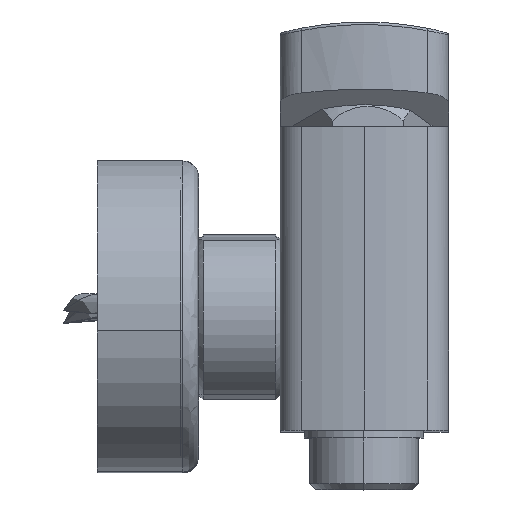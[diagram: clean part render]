
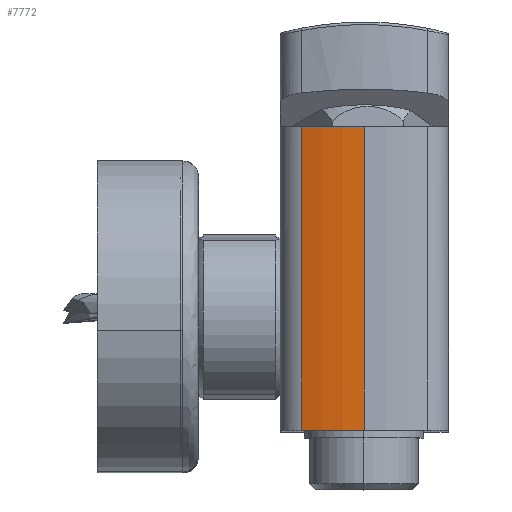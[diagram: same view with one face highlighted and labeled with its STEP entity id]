
A CAD part, top view. The second image highlights one B-rep face of the part: STEP entity #7772.
In plain terms, the highlighted cylindrical face has radius 39.5 mm (diameter 79 mm), a partial arc.
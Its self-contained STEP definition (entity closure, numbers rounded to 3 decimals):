
#667 = CARTESIAN_POINT ( 'NONE',  ( -17.143, 91.5, -92.294 ) ) ;
#1071 = LINE ( 'NONE', #9719, #22605 ) ;
#1360 = CARTESIAN_POINT ( 'NONE',  ( -21.086, 33., -93.394 ) ) ;
#1719 = EDGE_LOOP ( 'NONE', ( #16649, #6763, #9537, #11215 ) ) ;
#3274 = DIRECTION ( 'NONE',  ( 0., 0., 1. ) ) ;
#4417 = B_SPLINE_CURVE_WITH_KNOTS ( 'NONE', 3,
 ( #21858, #26493, #667, #9307, #19740, #15748 ),
 .UNSPECIFIED., .F., .F.,
 ( 4, 2, 4 ),
 ( 0., 0.5, 1. ),
 .UNSPECIFIED. ) ;
#6763 = ORIENTED_EDGE ( 'NONE', *, *, #20811, .T. ) ;
#7213 = VECTOR ( 'NONE', #8893, 1000. ) ;
#7772 = ADVANCED_FACE ( 'NONE', ( #24576 ), #13922, .T. ) ;
#8893 = DIRECTION ( 'NONE',  ( 0., -1., 0. ) ) ;
#9307 = CARTESIAN_POINT ( 'NONE',  ( -13.09, 91.5, -91.659 ) ) ;
#9360 = DIRECTION ( 'NONE',  ( 0., 1., 0. ) ) ;
#9537 = ORIENTED_EDGE ( 'NONE', *, *, #11516, .F. ) ;
#9719 = CARTESIAN_POINT ( 'NONE',  ( -9., 89., -91.5 ) ) ;
#10192 = CARTESIAN_POINT ( 'NONE',  ( -21.086, 91.5, -93.394 ) ) ;
#10885 = EDGE_CURVE ( 'NONE', #19066, #16365, #23969, .T. ) ;
#10922 = CARTESIAN_POINT ( 'NONE',  ( -9., 91.5, -91.5 ) ) ;
#11215 = ORIENTED_EDGE ( 'NONE', *, *, #10885, .T. ) ;
#11516 = EDGE_CURVE ( 'NONE', #19066, #21044, #4417, .T. ) ;
#13303 = CARTESIAN_POINT ( 'NONE',  ( -21.086, 89., -93.394 ) ) ;
#13922 = CYLINDRICAL_SURFACE ( 'NONE', #14686, 39.5 ) ;
#14132 = CARTESIAN_POINT ( 'NONE',  ( -13.094, 33., -91.5 ) ) ;
#14686 = AXIS2_PLACEMENT_3D ( 'NONE', #16357, #9360, #3274 ) ;
#15167 = B_SPLINE_CURVE_WITH_KNOTS ( 'NONE', 3,
 ( #20148, #24509, #14132, #20282 ),
 .UNSPECIFIED., .F., .F.,
 ( 4, 4 ),
 ( 0., 1. ),
 .UNSPECIFIED. ) ;
#15748 = CARTESIAN_POINT ( 'NONE',  ( -9., 91.5, -91.5 ) ) ;
#16357 = CARTESIAN_POINT ( 'NONE',  ( -9., 89., -131. ) ) ;
#16365 = VERTEX_POINT ( 'NONE', #1360 ) ;
#16649 = ORIENTED_EDGE ( 'NONE', *, *, #20942, .T. ) ;
#19066 = VERTEX_POINT ( 'NONE', #10192 ) ;
#19740 = CARTESIAN_POINT ( 'NONE',  ( -11.051, 91.5, -91.5 ) ) ;
#19933 = VERTEX_POINT ( 'NONE', #24620 ) ;
#20148 = CARTESIAN_POINT ( 'NONE',  ( -21.086, 33., -93.394 ) ) ;
#20282 = CARTESIAN_POINT ( 'NONE',  ( -9., 33., -91.5 ) ) ;
#20811 = EDGE_CURVE ( 'NONE', #19933, #21044, #1071, .T. ) ;
#20942 = EDGE_CURVE ( 'NONE', #16365, #19933, #15167, .T. ) ;
#21044 = VERTEX_POINT ( 'NONE', #10922 ) ;
#21858 = CARTESIAN_POINT ( 'NONE',  ( -21.086, 91.5, -93.394 ) ) ;
#22605 = VECTOR ( 'NONE', #27313, 1000. ) ;
#23969 = LINE ( 'NONE', #13303, #7213 ) ;
#24509 = CARTESIAN_POINT ( 'NONE',  ( -17.188, 33., -92.142 ) ) ;
#24576 = FACE_OUTER_BOUND ( 'NONE', #1719, .T. ) ;
#24620 = CARTESIAN_POINT ( 'NONE',  ( -9., 33., -91.5 ) ) ;
#26493 = CARTESIAN_POINT ( 'NONE',  ( -19.133, 91.5, -92.767 ) ) ;
#27313 = DIRECTION ( 'NONE',  ( 0., 1., 0. ) ) ;
